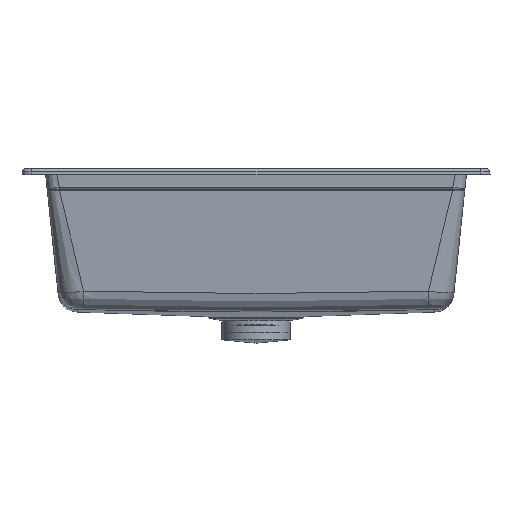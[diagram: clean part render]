
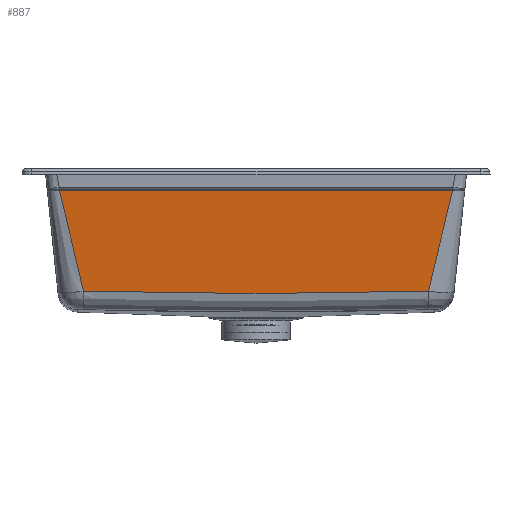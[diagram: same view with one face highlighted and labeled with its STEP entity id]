
A CAD part, front view. The second image highlights one B-rep face of the part: STEP entity #887.
In plain terms, the highlighted planar face has unit normal (0, -0.995, -0.104).
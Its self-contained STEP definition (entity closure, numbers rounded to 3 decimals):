
#463=PLANE('',#7691);
#887=ADVANCED_FACE('',(#1219),#463,.T.);
#1219=FACE_OUTER_BOUND('',#1637,.T.);
#1637=EDGE_LOOP('',(#3244,#3245,#3246,#3247));
#3244=ORIENTED_EDGE('',*,*,#4569,.T.);
#3245=ORIENTED_EDGE('',*,*,#4570,.T.);
#3246=ORIENTED_EDGE('',*,*,#4571,.T.);
#3247=ORIENTED_EDGE('',*,*,#4572,.T.);
#4569=EDGE_CURVE('',#7006,#7007,#5588,.T.);
#4570=EDGE_CURVE('',#7007,#7008,#5589,.T.);
#4571=EDGE_CURVE('',#7008,#7009,#5590,.T.);
#4572=EDGE_CURVE('',#7009,#7006,#5591,.T.);
#5588=B_SPLINE_CURVE_WITH_KNOTS('',1,(#51897,#51898),.UNSPECIFIED.,.F.,
 .F.,(2,2),(0.,1.),.UNSPECIFIED.);
#5589=B_SPLINE_CURVE_WITH_KNOTS('',1,(#51899,#51900),.UNSPECIFIED.,.F.,
 .F.,(2,2),(0.,1.),.UNSPECIFIED.);
#5590=B_SPLINE_CURVE_WITH_KNOTS('',3,(#51901,#51902,#51903,#51904,#51905,
#51906,#51907,#51908,#51909),.UNSPECIFIED.,.F.,.F.,(4,1,1,1,1,1,4),(0.,
0.167,0.333,0.5,0.667,0.833,1.),
 .UNSPECIFIED.);
#5591=B_SPLINE_CURVE_WITH_KNOTS('',1,(#51910,#51911),.UNSPECIFIED.,.F.,
 .F.,(2,2),(0.,1.),.UNSPECIFIED.);
#7006=VERTEX_POINT('',#51893);
#7007=VERTEX_POINT('',#51894);
#7008=VERTEX_POINT('',#51895);
#7009=VERTEX_POINT('',#51896);
#7691=AXIS2_PLACEMENT_3D('',#51892,#7715,$);
#7715=DIRECTION('',(0.,-0.995,-0.105));
#51892=CARTESIAN_POINT('',(416.465,-264.678,-155.29));
#51893=CARTESIAN_POINT('',(404.32,-278.184,-26.791));
#51894=CARTESIAN_POINT('',(-74.32,-278.184,-26.791));
#51895=CARTESIAN_POINT('',(-44.923,-265.345,-148.95));
#51896=CARTESIAN_POINT('',(374.923,-265.345,-148.95));
#51897=CARTESIAN_POINT('',(404.32,-278.184,-26.791));
#51898=CARTESIAN_POINT('',(-74.32,-278.184,-26.791));
#51899=CARTESIAN_POINT('',(-74.32,-278.184,-26.791));
#51900=CARTESIAN_POINT('',(-44.923,-265.345,-148.95));
#51901=CARTESIAN_POINT('',(-44.923,-265.345,-148.95));
#51902=CARTESIAN_POINT('',(-17.717,-265.275,-149.612));
#51903=CARTESIAN_POINT('',(34.008,-265.16,-150.712));
#51904=CARTESIAN_POINT('',(102.362,-265.058,-151.679));
#51905=CARTESIAN_POINT('',(165.001,-265.026,-151.982));
#51906=CARTESIAN_POINT('',(227.639,-265.058,-151.679));
#51907=CARTESIAN_POINT('',(295.993,-265.16,-150.712));
#51908=CARTESIAN_POINT('',(347.717,-265.275,-149.612));
#51909=CARTESIAN_POINT('',(374.923,-265.345,-148.95));
#51910=CARTESIAN_POINT('',(374.923,-265.345,-148.95));
#51911=CARTESIAN_POINT('',(404.32,-278.184,-26.791));
